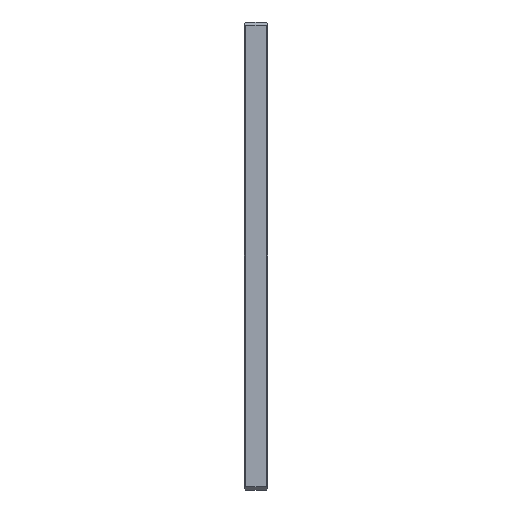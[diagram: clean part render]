
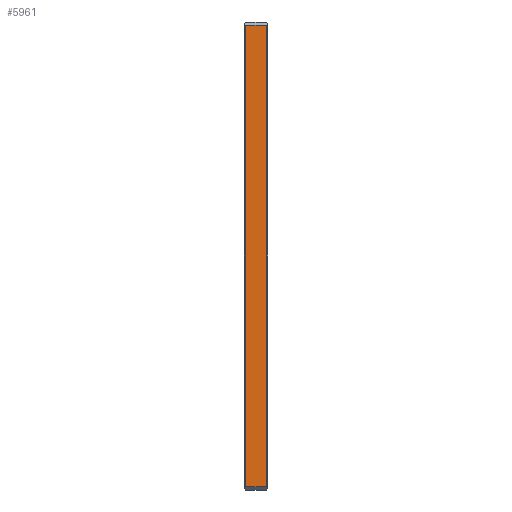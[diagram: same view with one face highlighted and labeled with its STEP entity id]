
A CAD part, front view. The second image highlights one B-rep face of the part: STEP entity #5961.
In plain terms, the highlighted planar face has unit normal (0, -1, 0).
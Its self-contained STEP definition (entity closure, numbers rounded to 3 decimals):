
#1763=FACE_OUTER_BOUND($,#2506,.T.);
#2506=EDGE_LOOP($,(#5039,#5040,#5041,#5042));
#3394=LINE($,#9867,#3434);
#3399=LINE($,#9876,#3439);
#3417=LINE($,#10200,#3457);
#3418=LINE($,#10203,#3458);
#3434=VECTOR($,#7752,13.);
#3439=VECTOR($,#7759,296.);
#3457=VECTOR($,#8083,296.);
#3458=VECTOR($,#8088,13.);
#3615=VERTEX_POINT($,#9864);
#3616=VERTEX_POINT($,#9866);
#3619=VERTEX_POINT($,#9874);
#3772=VERTEX_POINT($,#10198);
#4223=EDGE_CURVE($,#3615,#3616,#3394,.T.);
#4228=EDGE_CURVE($,#3619,#3615,#3399,.T.);
#4391=EDGE_CURVE($,#3616,#3772,#3417,.T.);
#4392=EDGE_CURVE($,#3772,#3619,#3418,.T.);
#5039=ORIENTED_EDGE($,*,*,#4228,.F.);
#5040=ORIENTED_EDGE($,*,*,#4392,.F.);
#5041=ORIENTED_EDGE($,*,*,#4391,.F.);
#5042=ORIENTED_EDGE($,*,*,#4223,.F.);
#5938=PLANE($,#6707);
#5961=ADVANCED_FACE($,(#1763),#5938,.T.);
#6707=AXIS2_PLACEMENT_3D($,#10202,#8086,#8087);
#7752=DIRECTION($,(1.,0.,0.));
#7759=DIRECTION($,(0.,0.,1.));
#8083=DIRECTION($,(0.,0.,-1.));
#8086=DIRECTION('center_axis',(0.,-1.,0.));
#8087=DIRECTION('ref_axis',(0.,0.,-1.));
#8088=DIRECTION($,(-1.,0.,0.));
#9864=CARTESIAN_POINT('',(1.,0.,298.));
#9866=CARTESIAN_POINT('',(14.,0.,298.));
#9867=CARTESIAN_POINT($,(0.,0.,298.));
#9874=CARTESIAN_POINT('',(1.,0.,2.));
#9876=CARTESIAN_POINT($,(1.,0.,225.));
#10198=CARTESIAN_POINT('',(14.,0.,2.));
#10200=CARTESIAN_POINT($,(14.,0.,225.));
#10202=CARTESIAN_POINT('Origin',(0.,0.,300.));
#10203=CARTESIAN_POINT($,(0.,0.,2.));
